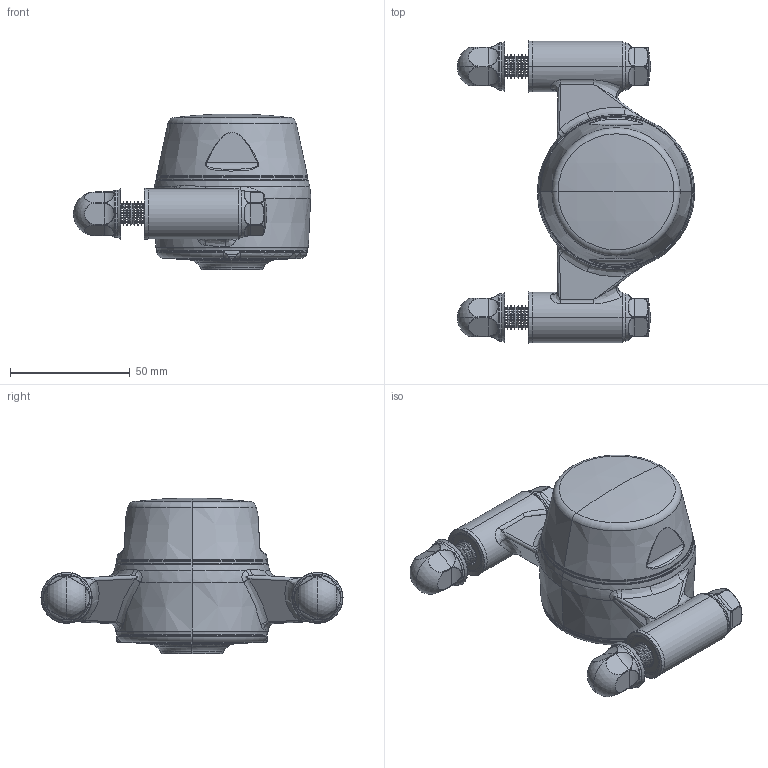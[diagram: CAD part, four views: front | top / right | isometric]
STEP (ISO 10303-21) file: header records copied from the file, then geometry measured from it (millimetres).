
FILE_DESCRIPTION (( 'STEP AP203' ), '1' );
FILE_NAME ('XBPBC52(White)-SSB2500(Front)-CL(White)-OS(White)-BXHM1055-NDXHM10_Shell.step', '2020-08-07T09:32:56', ( '' ), ( '' ), 'SwSTEP 2.0', 'SolidWorks 2019', '' );
FILE_SCHEMA (( 'CONFIG_CONTROL_DESIGN' ));
Length unit declared in the file: millimetre
Products named in the file (1): XBPBC52(White)-SSB2500(Front)-CL(White)-OS(White)-BXHM1055-NDXHM10_Shell
Bounding box: 99.29 x 126.4 x 65.25 mm (x, y, z)
Surface area: 39471.1 mm2 (no closed solid volume)
Topology: 0 solids, 41 shells, 680 faces, 1822 edges, 1132 vertices
Faces by surface type: torus 174, cylinder 170, bspline 156, cone 113, plane 53, sphere 14
Entity records: 32484 total; most frequent: CARTESIAN_POINT 16435, DIRECTION 3447, ORIENTED_EDGE 3204, EDGE_CURVE 1822, AXIS2_PLACEMENT_3D 1554, VERTEX_POINT 1132, CIRCLE 1029, EDGE_LOOP 705
